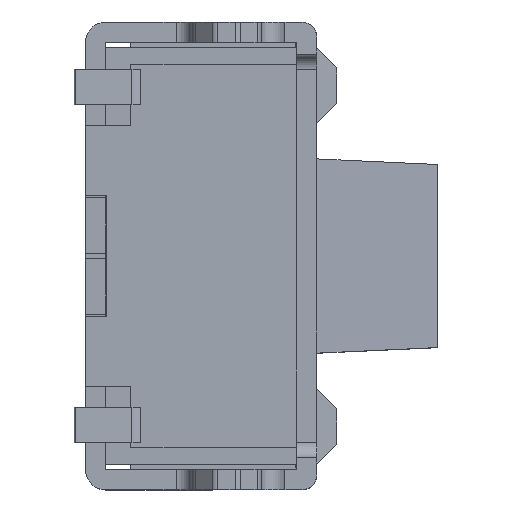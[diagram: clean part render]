
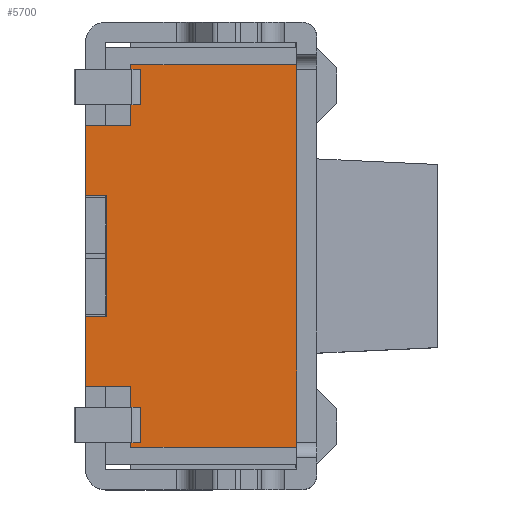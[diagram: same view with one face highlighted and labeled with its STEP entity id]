
A CAD part, top view. The second image highlights one B-rep face of the part: STEP entity #5700.
In plain terms, the highlighted planar face has unit normal (0, 0, 1).
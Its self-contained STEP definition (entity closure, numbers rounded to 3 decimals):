
#289=DIRECTION('',(1.,0.,0.));
#290=VECTOR('',#289,0.21);
#291=CARTESIAN_POINT('',(0.,0.6,0.925));
#292=LINE('',#291,#290);
#359=DIRECTION('',(0.,1.,0.));
#360=VECTOR('',#359,1.2);
#361=CARTESIAN_POINT('',(0.21,-0.6,0.925));
#362=LINE('',#361,#360);
#366=DIRECTION('',(0.,1.,0.));
#367=VECTOR('',#366,0.7);
#368=CARTESIAN_POINT('',(0.,0.6,0.925));
#369=LINE('',#368,#367);
#373=DIRECTION('',(-1.,0.,0.));
#374=VECTOR('',#373,0.45);
#375=CARTESIAN_POINT('',(0.45,1.3,0.925));
#376=LINE('',#375,#374);
#380=DIRECTION('',(1.,0.,0.));
#381=VECTOR('',#380,0.097);
#382=CARTESIAN_POINT('',(0.45,1.505,0.925));
#383=LINE('',#382,#381);
#387=DIRECTION('',(0.,1.,0.));
#388=VECTOR('',#387,0.35);
#389=CARTESIAN_POINT('',(0.547,1.505,0.925));
#390=LINE('',#389,#388);
#394=DIRECTION('',(1.,0.,0.));
#395=VECTOR('',#394,0.097);
#396=CARTESIAN_POINT('',(0.45,1.855,0.925));
#397=LINE('',#396,#395);
#401=DIRECTION('',(1.,0.,0.));
#402=VECTOR('',#401,0.097);
#403=CARTESIAN_POINT('',(0.45,-1.855,0.925));
#404=LINE('',#403,#402);
#408=DIRECTION('',(0.,1.,0.));
#409=VECTOR('',#408,0.35);
#410=CARTESIAN_POINT('',(0.547,-1.855,0.925));
#411=LINE('',#410,#409);
#415=DIRECTION('',(1.,0.,0.));
#416=VECTOR('',#415,0.097);
#417=CARTESIAN_POINT('',(0.45,-1.505,0.925));
#418=LINE('',#417,#416);
#422=DIRECTION('',(0.,1.,0.));
#423=VECTOR('',#422,0.7);
#424=CARTESIAN_POINT('',(0.,-1.3,0.925));
#425=LINE('',#424,#423);
#2309=DIRECTION('',(0.,-1.,0.));
#2310=VECTOR('',#2309,3.8);
#2311=CARTESIAN_POINT('',(2.1,1.9,0.925));
#2312=LINE('',#2311,#2310);
#2353=DIRECTION('',(-1.,0.,0.));
#2354=VECTOR('',#2353,1.65);
#2355=CARTESIAN_POINT('',(2.1,-1.9,0.925));
#2356=LINE('',#2355,#2354);
#2381=DIRECTION('',(1.,0.,0.));
#2382=VECTOR('',#2381,0.45);
#2383=CARTESIAN_POINT('',(0.,-1.3,0.925));
#2384=LINE('',#2383,#2382);
#2633=DIRECTION('',(1.,0.,0.));
#2634=VECTOR('',#2633,1.65);
#2635=CARTESIAN_POINT('',(0.45,1.9,0.925));
#2636=LINE('',#2635,#2634);
#2647=DIRECTION('',(0.,1.,0.));
#2648=VECTOR('',#2647,0.205);
#2649=CARTESIAN_POINT('',(0.45,1.3,0.925));
#2650=LINE('',#2649,#2648);
#2668=DIRECTION('',(0.,1.,0.));
#2669=VECTOR('',#2668,0.045);
#2670=CARTESIAN_POINT('',(0.45,1.855,0.925));
#2671=LINE('',#2670,#2669);
#3167=DIRECTION('',(-1.,0.,0.));
#3168=VECTOR('',#3167,0.21);
#3169=CARTESIAN_POINT('',(0.21,-0.6,0.925));
#3170=LINE('',#3169,#3168);
#3356=DIRECTION('',(0.,1.,0.));
#3357=VECTOR('',#3356,0.045);
#3358=CARTESIAN_POINT('',(0.45,-1.9,0.925));
#3359=LINE('',#3358,#3357);
#3377=DIRECTION('',(0.,1.,0.));
#3378=VECTOR('',#3377,0.205);
#3379=CARTESIAN_POINT('',(0.45,-1.505,0.925));
#3380=LINE('',#3379,#3378);
#5177=CARTESIAN_POINT('',(0.45,1.3,0.925));
#5178=CARTESIAN_POINT('',(0.,1.3,0.925));
#5179=VERTEX_POINT('',#5177);
#5180=VERTEX_POINT('',#5178);
#5181=CARTESIAN_POINT('',(0.,-1.3,0.925));
#5182=CARTESIAN_POINT('',(0.45,-1.3,0.925));
#5183=VERTEX_POINT('',#5181);
#5184=VERTEX_POINT('',#5182);
#5185=CARTESIAN_POINT('',(0.45,1.505,0.925));
#5186=CARTESIAN_POINT('',(0.547,1.505,0.925));
#5187=VERTEX_POINT('',#5185);
#5188=VERTEX_POINT('',#5186);
#5189=CARTESIAN_POINT('',(0.45,1.855,0.925));
#5190=CARTESIAN_POINT('',(0.547,1.855,0.925));
#5191=VERTEX_POINT('',#5189);
#5192=VERTEX_POINT('',#5190);
#5193=CARTESIAN_POINT('',(0.45,1.9,0.925));
#5194=VERTEX_POINT('',#5193);
#5195=CARTESIAN_POINT('',(0.45,-1.855,0.925));
#5196=CARTESIAN_POINT('',(0.547,-1.855,0.925));
#5197=VERTEX_POINT('',#5195);
#5198=VERTEX_POINT('',#5196);
#5199=CARTESIAN_POINT('',(0.45,-1.505,0.925));
#5200=CARTESIAN_POINT('',(0.547,-1.505,0.925));
#5201=VERTEX_POINT('',#5199);
#5202=VERTEX_POINT('',#5200);
#5203=CARTESIAN_POINT('',(0.45,-1.9,0.925));
#5204=VERTEX_POINT('',#5203);
#5205=CARTESIAN_POINT('',(0.,-0.6,0.925));
#5206=VERTEX_POINT('',#5205);
#5215=CARTESIAN_POINT('',(0.,0.6,0.925));
#5216=VERTEX_POINT('',#5215);
#5225=CARTESIAN_POINT('',(0.21,-0.6,0.925));
#5226=CARTESIAN_POINT('',(0.21,0.6,0.925));
#5227=VERTEX_POINT('',#5225);
#5228=VERTEX_POINT('',#5226);
#5229=CARTESIAN_POINT('',(2.1,1.9,0.925));
#5230=VERTEX_POINT('',#5229);
#5231=CARTESIAN_POINT('',(2.1,-1.9,0.925));
#5232=VERTEX_POINT('',#5231);
#5654=CARTESIAN_POINT('',(1.125,0.,0.925));
#5655=DIRECTION('',(0.,0.,1.));
#5656=DIRECTION('',(0.,-1.,0.));
#5657=AXIS2_PLACEMENT_3D('',#5654,#5655,#5656);
#5658=PLANE('',#5657);
#5660=ORIENTED_EDGE('',*,*,#5659,.T.);
#5661=ORIENTED_EDGE('',*,*,#5612,.F.);
#5663=ORIENTED_EDGE('',*,*,#5662,.T.);
#5665=ORIENTED_EDGE('',*,*,#5664,.F.);
#5667=ORIENTED_EDGE('',*,*,#5666,.T.);
#5669=ORIENTED_EDGE('',*,*,#5668,.T.);
#5671=ORIENTED_EDGE('',*,*,#5670,.T.);
#5673=ORIENTED_EDGE('',*,*,#5672,.F.);
#5675=ORIENTED_EDGE('',*,*,#5674,.T.);
#5677=ORIENTED_EDGE('',*,*,#5676,.T.);
#5679=ORIENTED_EDGE('',*,*,#5678,.T.);
#5681=ORIENTED_EDGE('',*,*,#5680,.T.);
#5683=ORIENTED_EDGE('',*,*,#5682,.T.);
#5685=ORIENTED_EDGE('',*,*,#5684,.T.);
#5687=ORIENTED_EDGE('',*,*,#5686,.T.);
#5689=ORIENTED_EDGE('',*,*,#5688,.F.);
#5691=ORIENTED_EDGE('',*,*,#5690,.T.);
#5693=ORIENTED_EDGE('',*,*,#5692,.F.);
#5695=ORIENTED_EDGE('',*,*,#5694,.T.);
#5697=ORIENTED_EDGE('',*,*,#5696,.F.);
#5698=EDGE_LOOP('',(#5660,#5661,#5663,#5665,#5667,#5669,#5671,#5673,#5675,#5677,
#5679,#5681,#5683,#5685,#5687,#5689,#5691,#5693,#5695,#5697));
#5699=FACE_OUTER_BOUND('',#5698,.F.);
#5612=EDGE_CURVE('',#5216,#5228,#292,.T.);
#5659=EDGE_CURVE('',#5227,#5228,#362,.T.);
#5662=EDGE_CURVE('',#5216,#5180,#369,.T.);
#5664=EDGE_CURVE('',#5179,#5180,#376,.T.);
#5666=EDGE_CURVE('',#5179,#5187,#2650,.T.);
#5668=EDGE_CURVE('',#5187,#5188,#383,.T.);
#5670=EDGE_CURVE('',#5188,#5192,#390,.T.);
#5672=EDGE_CURVE('',#5191,#5192,#397,.T.);
#5674=EDGE_CURVE('',#5191,#5194,#2671,.T.);
#5676=EDGE_CURVE('',#5194,#5230,#2636,.T.);
#5678=EDGE_CURVE('',#5230,#5232,#2312,.T.);
#5680=EDGE_CURVE('',#5232,#5204,#2356,.T.);
#5682=EDGE_CURVE('',#5204,#5197,#3359,.T.);
#5684=EDGE_CURVE('',#5197,#5198,#404,.T.);
#5686=EDGE_CURVE('',#5198,#5202,#411,.T.);
#5688=EDGE_CURVE('',#5201,#5202,#418,.T.);
#5690=EDGE_CURVE('',#5201,#5184,#3380,.T.);
#5692=EDGE_CURVE('',#5183,#5184,#2384,.T.);
#5694=EDGE_CURVE('',#5183,#5206,#425,.T.);
#5696=EDGE_CURVE('',#5227,#5206,#3170,.T.);
#5700=ADVANCED_FACE('',(#5699),#5658,.T.);
